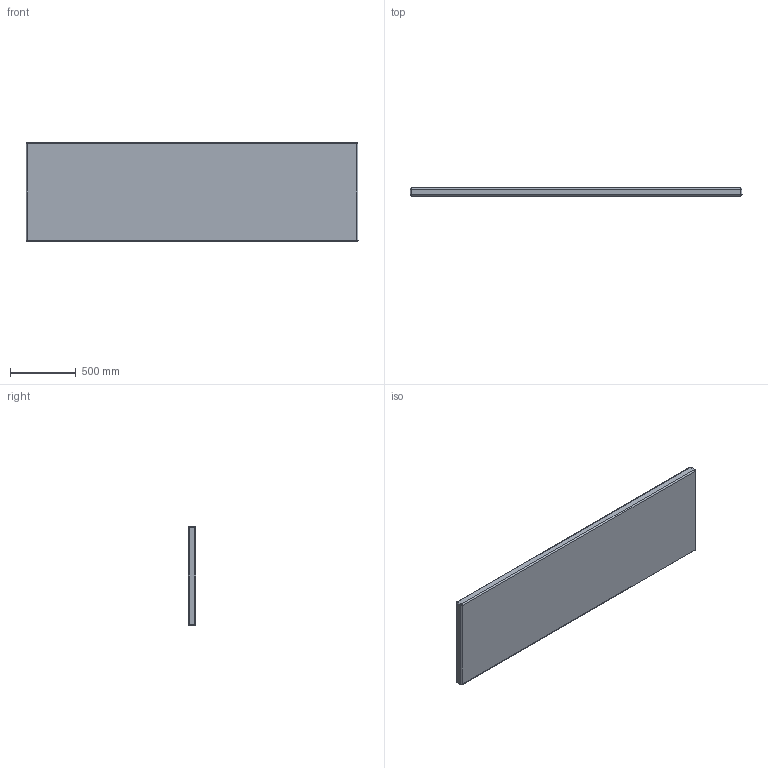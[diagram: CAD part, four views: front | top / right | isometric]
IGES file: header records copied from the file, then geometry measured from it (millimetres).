
Start section: SolidWorks IGES file using NURBS representation for surfaces
Global section: file name: D:\VICCARBE\PRODUCTOS\19-MASS\04-MODELADOS (PLANOS)\SOLIDWORKS\PIEZAS\Bases\01-IGES\VICCARBE_Mass_base_252.IGS; native system: SolidWorks 2009; preprocessor: SolidWorks 2009; author: RUBEN; date: 110908.161839; units: millimetre
Bounding box: 2520 x 60 x 750 mm (x, y, z)
Surface area: 4115116.8 mm2 (no closed solid volume)
Topology: 0 solids, 0 shells, 26 faces, 104 edges, 96 vertices
Faces by surface type: bspline 26
